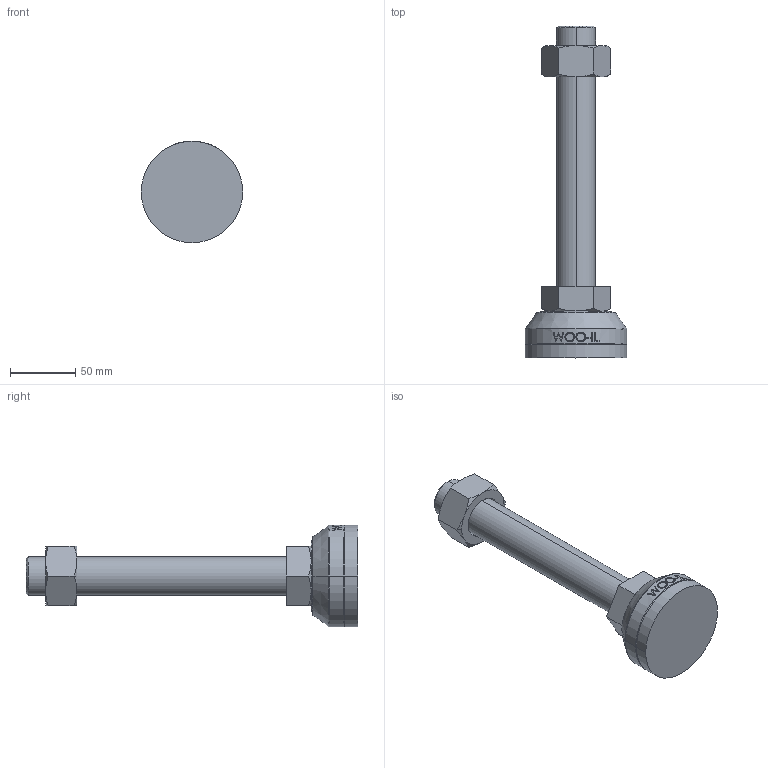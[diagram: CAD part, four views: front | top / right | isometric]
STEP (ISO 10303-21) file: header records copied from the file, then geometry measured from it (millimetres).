
FILE_DESCRIPTION (( 'STEP AP214' ), '1' );
FILE_NAME ('MFR78-M30-200.step', '2021-01-13T05:41:31', ( '' ), ( '' ), 'SwSTEP 2.0', 'SolidWorks 2019', '' );
FILE_SCHEMA (( 'AUTOMOTIVE_DESIGN' ));
Length unit declared in the file: millimetre
Products named in the file (2): MFR78-M30-200
Bounding box: 78 x 255 x 78 mm (x, y, z)
Volume: 359441.9 mm3; surface area: 59534 mm2
Topology: 4 solids, 4 shells, 118 faces, 283 edges, 183 vertices
Faces by surface type: plane 49, cone 29, cylinder 18, bspline 16, torus 6
Entity records: 4990 total; most frequent: CARTESIAN_POINT 2312, ORIENTED_EDGE 566, DIRECTION 492, EDGE_CURVE 283, AXIS2_PLACEMENT_3D 189, VERTEX_POINT 183, EDGE_LOOP 130, FACE_OUTER_BOUND 118
